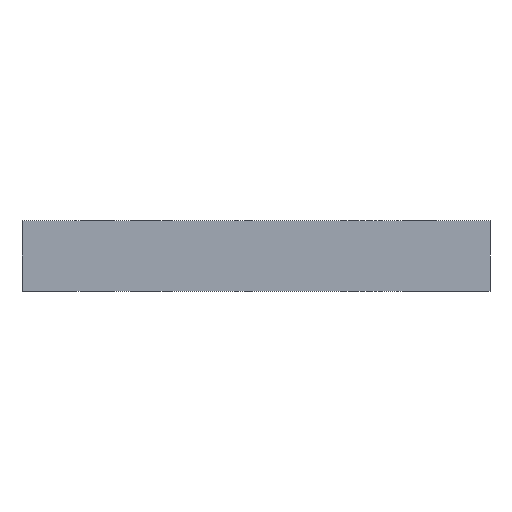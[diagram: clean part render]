
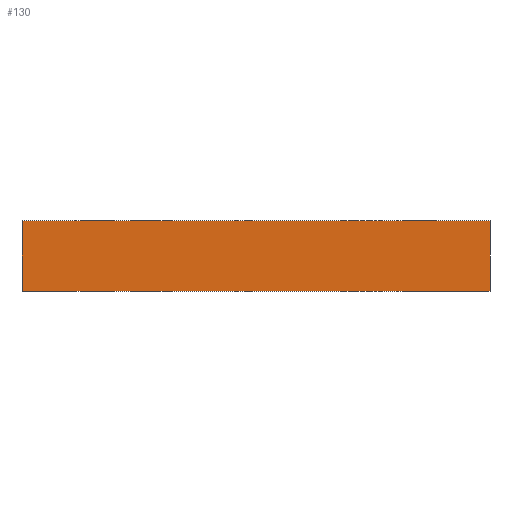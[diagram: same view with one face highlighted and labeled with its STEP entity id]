
A CAD part, front view. The second image highlights one B-rep face of the part: STEP entity #130.
In plain terms, the highlighted planar face has unit normal (0, -1, 0).
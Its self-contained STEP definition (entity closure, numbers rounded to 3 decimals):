
#18 = CARTESIAN_POINT ( 'NONE',  ( -40., -150., 0. ) ) ;
#20 = VECTOR ( 'NONE', #31, 1000. ) ;
#31 = DIRECTION ( 'NONE',  ( 0., 0., -1. ) ) ;
#57 = EDGE_CURVE ( 'NONE', #399, #592, #137, .T. ) ;
#102 = AXIS2_PLACEMENT_3D ( 'NONE', #334, #244, #979 ) ;
#130 = ADVANCED_FACE ( 'NONE', ( #1155 ), #1159, .F. ) ;
#137 = LINE ( 'NONE', #848, #20 ) ;
#237 = LINE ( 'NONE', #777, #543 ) ;
#244 = DIRECTION ( 'NONE',  ( 0., 1., 0. ) ) ;
#334 = CARTESIAN_POINT ( 'NONE',  ( -40., -150., 12. ) ) ;
#399 = VERTEX_POINT ( 'NONE', #733 ) ;
#424 = DIRECTION ( 'NONE',  ( 1., 0., 0. ) ) ;
#482 = EDGE_LOOP ( 'NONE', ( #1106, #921, #516, #542 ) ) ;
#506 = CARTESIAN_POINT ( 'NONE',  ( -40., -150., 12. ) ) ;
#516 = ORIENTED_EDGE ( 'NONE', *, *, #938, .F. ) ;
#542 = ORIENTED_EDGE ( 'NONE', *, *, #594, .T. ) ;
#543 = VECTOR ( 'NONE', #1158, 1000. ) ;
#581 = EDGE_CURVE ( 'NONE', #1183, #592, #237, .T. ) ;
#592 = VERTEX_POINT ( 'NONE', #961 ) ;
#594 = EDGE_CURVE ( 'NONE', #932, #1183, #700, .T. ) ;
#600 = LINE ( 'NONE', #775, #984 ) ;
#700 = LINE ( 'NONE', #506, #779 ) ;
#733 = CARTESIAN_POINT ( 'NONE',  ( 40., -150., 12. ) ) ;
#775 = CARTESIAN_POINT ( 'NONE',  ( -40., -150., 12. ) ) ;
#777 = CARTESIAN_POINT ( 'NONE',  ( -40., -150., 0. ) ) ;
#779 = VECTOR ( 'NONE', #787, 1000. ) ;
#787 = DIRECTION ( 'NONE',  ( 0., 0., -1. ) ) ;
#848 = CARTESIAN_POINT ( 'NONE',  ( 40., -150., 12. ) ) ;
#921 = ORIENTED_EDGE ( 'NONE', *, *, #57, .F. ) ;
#932 = VERTEX_POINT ( 'NONE', #1151 ) ;
#938 = EDGE_CURVE ( 'NONE', #932, #399, #600, .T. ) ;
#961 = CARTESIAN_POINT ( 'NONE',  ( 40., -150., 0. ) ) ;
#979 = DIRECTION ( 'NONE',  ( 0., 0., 1. ) ) ;
#984 = VECTOR ( 'NONE', #424, 1000. ) ;
#1106 = ORIENTED_EDGE ( 'NONE', *, *, #581, .T. ) ;
#1151 = CARTESIAN_POINT ( 'NONE',  ( -40., -150., 12. ) ) ;
#1155 = FACE_OUTER_BOUND ( 'NONE', #482, .T. ) ;
#1158 = DIRECTION ( 'NONE',  ( 1., 0., 0. ) ) ;
#1159 = PLANE ( 'NONE',  #102 ) ;
#1183 = VERTEX_POINT ( 'NONE', #18 ) ;
